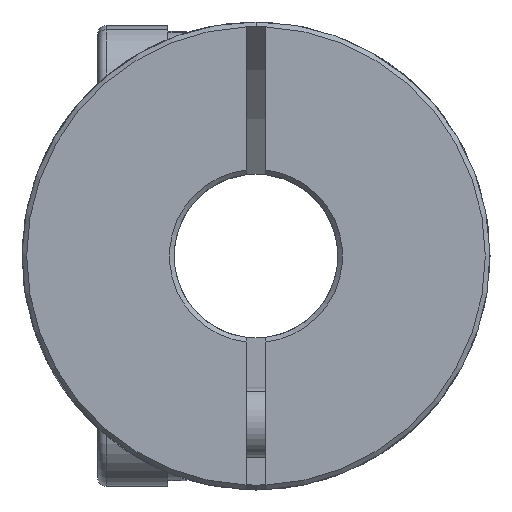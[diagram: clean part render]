
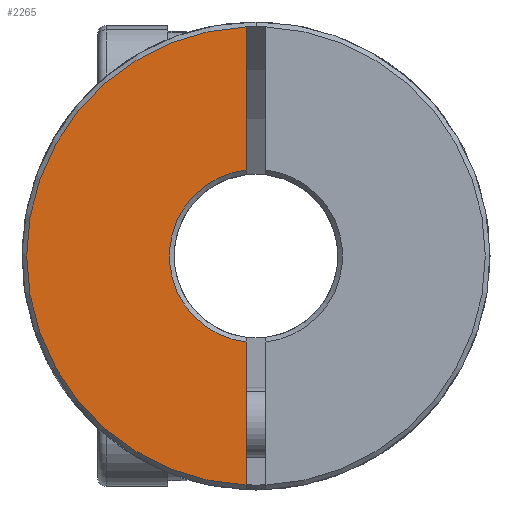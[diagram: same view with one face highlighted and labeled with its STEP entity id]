
A CAD part, front view. The second image highlights one B-rep face of the part: STEP entity #2265.
In plain terms, the highlighted planar face has unit normal (0, -1, 0).
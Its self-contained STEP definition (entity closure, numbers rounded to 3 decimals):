
#161 = DIRECTION ( 'NONE',  ( 0., 0., -1. ) ) ;
#274 = EDGE_CURVE ( 'NONE', #1573, #1307, #5742, .T. ) ;
#519 = CARTESIAN_POINT ( 'NONE',  ( -0.4, -17.5, -9.792 ) ) ;
#526 = EDGE_CURVE ( 'NONE', #1573, #752, #6805, .T. ) ;
#718 = CARTESIAN_POINT ( 'NONE',  ( -0.4, -17.5, -3.678 ) ) ;
#752 = VERTEX_POINT ( 'NONE', #519 ) ;
#878 = CARTESIAN_POINT ( 'NONE',  ( -0.4, -17.5, 9.792 ) ) ;
#973 = CARTESIAN_POINT ( 'NONE',  ( 0., -17.5, 0. ) ) ;
#1002 = DIRECTION ( 'NONE',  ( 0., 1., 0. ) ) ;
#1058 = CARTESIAN_POINT ( 'NONE',  ( 0., -17.5, 0. ) ) ;
#1148 = ORIENTED_EDGE ( 'NONE', *, *, #526, .F. ) ;
#1307 = VERTEX_POINT ( 'NONE', #4320 ) ;
#1348 = ORIENTED_EDGE ( 'NONE', *, *, #274, .T. ) ;
#1447 = DIRECTION ( 'NONE',  ( 0., 0., 1. ) ) ;
#1573 = VERTEX_POINT ( 'NONE', #718 ) ;
#1726 = EDGE_CURVE ( 'NONE', #4574, #752, #7232, .T. ) ;
#1789 = ORIENTED_EDGE ( 'NONE', *, *, #2879, .F. ) ;
#2265 = ADVANCED_FACE ( 'NONE', ( #4527 ), #3849, .F. ) ;
#2324 = DIRECTION ( 'NONE',  ( 0., 0., 1. ) ) ;
#2709 = DIRECTION ( 'NONE',  ( 0., 0., 1. ) ) ;
#2879 = EDGE_CURVE ( 'NONE', #4574, #1307, #6101, .T. ) ;
#3089 = CARTESIAN_POINT ( 'NONE',  ( 0., -17.5, 0. ) ) ;
#3849 = PLANE ( 'NONE',  #6853 ) ;
#3934 = VECTOR ( 'NONE', #6061, 1000. ) ;
#4320 = CARTESIAN_POINT ( 'NONE',  ( -0.4, -17.5, 3.678 ) ) ;
#4527 = FACE_OUTER_BOUND ( 'NONE', #5493, .T. ) ;
#4574 = VERTEX_POINT ( 'NONE', #878 ) ;
#4825 = VECTOR ( 'NONE', #161, 1000. ) ;
#4974 = CARTESIAN_POINT ( 'NONE',  ( -0.4, -17.5, 0. ) ) ;
#5073 = ORIENTED_EDGE ( 'NONE', *, *, #1726, .T. ) ;
#5369 = AXIS2_PLACEMENT_3D ( 'NONE', #1058, #1002, #2709 ) ;
#5493 = EDGE_LOOP ( 'NONE', ( #1789, #5073, #1148, #1348 ) ) ;
#5626 = DIRECTION ( 'NONE',  ( 0., 1., 0. ) ) ;
#5742 = CIRCLE ( 'NONE', #5369, 3.7 ) ;
#6061 = DIRECTION ( 'NONE',  ( 0., 0., -1. ) ) ;
#6101 = LINE ( 'NONE', #4974, #3934 ) ;
#6269 = AXIS2_PLACEMENT_3D ( 'NONE', #3089, #7116, #1447 ) ;
#6508 = CARTESIAN_POINT ( 'NONE',  ( -0.4, -17.5, 0. ) ) ;
#6805 = LINE ( 'NONE', #6508, #4825 ) ;
#6853 = AXIS2_PLACEMENT_3D ( 'NONE', #973, #5626, #2324 ) ;
#7116 = DIRECTION ( 'NONE',  ( 0., -1., 0. ) ) ;
#7232 = CIRCLE ( 'NONE', #6269, 9.8 ) ;
